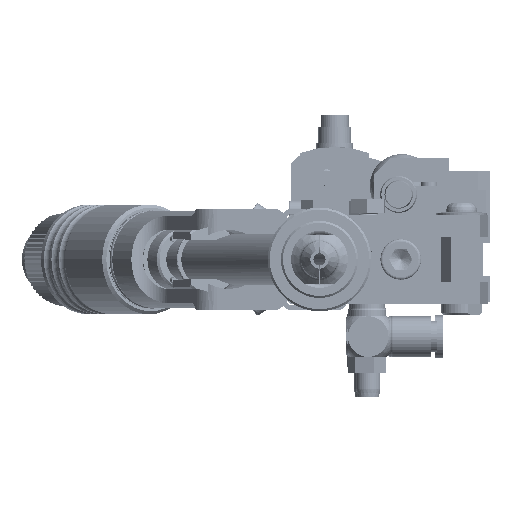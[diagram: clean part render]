
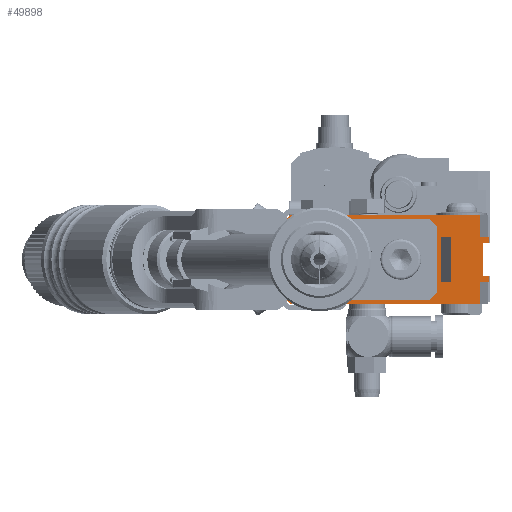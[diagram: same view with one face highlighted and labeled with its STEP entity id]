
A CAD part, left-side view. The second image highlights one B-rep face of the part: STEP entity #49898.
In plain terms, the highlighted planar face has unit normal (-1, 0, 0).
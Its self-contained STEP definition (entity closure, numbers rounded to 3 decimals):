
#1661=LINE($,#80573,#4888);
#2076=LINE($,#83476,#5303);
#2079=LINE($,#83482,#5306);
#2083=LINE($,#83489,#5310);
#2088=LINE($,#83499,#5315);
#2091=LINE($,#83506,#5318);
#2099=LINE($,#83519,#5326);
#2103=LINE($,#83527,#5330);
#2107=LINE($,#83536,#5334);
#2111=LINE($,#83551,#5338);
#2764=LINE($,#86483,#5991);
#2767=LINE($,#86489,#5994);
#2774=LINE($,#86502,#6001);
#2776=LINE($,#86506,#6003);
#2780=LINE($,#86513,#6007);
#2782=LINE($,#86517,#6009);
#2789=LINE($,#86557,#6016);
#2794=LINE($,#86565,#6021);
#2800=LINE($,#86583,#6027);
#2803=LINE($,#86588,#6030);
#2820=LINE($,#86621,#6047);
#2821=LINE($,#86624,#6048);
#2833=LINE($,#86651,#6060);
#2834=LINE($,#86653,#6061);
#2838=LINE($,#86661,#6065);
#2839=LINE($,#86662,#6066);
#2840=LINE($,#86664,#6067);
#2841=LINE($,#86665,#6068);
#4888=VECTOR($,#60247,32.924);
#5303=VECTOR($,#61754,8.);
#5306=VECTOR($,#61759,1.5);
#5310=VECTOR($,#61765,1.5);
#5315=VECTOR($,#61774,1.5);
#5318=VECTOR($,#61779,2.176);
#5326=VECTOR($,#61791,2.176);
#5330=VECTOR($,#61801,1.5);
#5334=VECTOR($,#61807,11.);
#5338=VECTOR($,#61827,11.);
#5991=VECTOR($,#63944,1.5);
#5994=VECTOR($,#63949,1.414);
#6001=VECTOR($,#63960,0.5);
#6003=VECTOR($,#63964,1.5);
#6007=VECTOR($,#63970,1.2);
#6009=VECTOR($,#63974,0.5);
#6016=VECTOR($,#64021,5.657);
#6021=VECTOR($,#64028,11.5);
#6027=VECTOR($,#64042,5.657);
#6030=VECTOR($,#64047,11.5);
#6047=VECTOR($,#64080,1.414);
#6048=VECTOR($,#64085,1.2);
#6060=VECTOR($,#64117,2.278);
#6061=VECTOR($,#64120,2.278);
#6065=VECTOR($,#64130,5.5);
#6066=VECTOR($,#64131,14.);
#6067=VECTOR($,#64132,32.924);
#6068=VECTOR($,#64133,5.5);
#12797=FACE_BOUND($,#18810,.T.);
#12798=FACE_BOUND($,#18811,.T.);
#12799=FACE_BOUND($,#18812,.T.);
#14902=FACE_OUTER_BOUND($,#18809,.T.);
#18809=EDGE_LOOP($,(#40186,#40187,#40188,#40189,#40190,#40191,#40192,#40193,
#40194,#40195,#40196,#40197,#40198,#40199,#40200,#40201,#40202,#40203,#40204,
#40205,#40206,#40207,#40208,#40209));
#18810=EDGE_LOOP($,(#40210,#40211,#40212,#40213));
#18811=EDGE_LOOP($,(#40214));
#18812=EDGE_LOOP($,(#40215));
#21702=CIRCLE($,#54092,8.975);
#21754=CIRCLE($,#54229,8.);
#23899=VERTEX_POINT($,#80570);
#23900=VERTEX_POINT($,#80572);
#24457=VERTEX_POINT($,#83473);
#24458=VERTEX_POINT($,#83475);
#24460=VERTEX_POINT($,#83481);
#24462=VERTEX_POINT($,#83487);
#24465=VERTEX_POINT($,#83498);
#24466=VERTEX_POINT($,#83502);
#24468=VERTEX_POINT($,#83505);
#24471=VERTEX_POINT($,#83518);
#24474=VERTEX_POINT($,#83530);
#24476=VERTEX_POINT($,#83534);
#24478=VERTEX_POINT($,#83548);
#24479=VERTEX_POINT($,#83550);
#25082=VERTEX_POINT($,#86098);
#25205=VERTEX_POINT($,#86480);
#25206=VERTEX_POINT($,#86482);
#25207=VERTEX_POINT($,#86486);
#25208=VERTEX_POINT($,#86488);
#25212=VERTEX_POINT($,#86500);
#25213=VERTEX_POINT($,#86504);
#25215=VERTEX_POINT($,#86511);
#25216=VERTEX_POINT($,#86515);
#25219=VERTEX_POINT($,#86525);
#25228=VERTEX_POINT($,#86554);
#25229=VERTEX_POINT($,#86556);
#25238=VERTEX_POINT($,#86581);
#25239=VERTEX_POINT($,#86582);
#25240=VERTEX_POINT($,#86587);
#25255=VERTEX_POINT($,#86663);
#28770=EDGE_CURVE($,#23900,#23899,#1661,.T.);
#29505=EDGE_CURVE($,#24458,#24457,#2076,.T.);
#29508=EDGE_CURVE($,#24460,#24458,#2079,.T.);
#29512=EDGE_CURVE($,#24457,#24462,#2083,.T.);
#29517=EDGE_CURVE($,#24465,#24460,#2088,.T.);
#29520=EDGE_CURVE($,#24468,#24466,#2091,.T.);
#29528=EDGE_CURVE($,#24471,#24465,#2099,.T.);
#29532=EDGE_CURVE($,#24462,#24468,#2103,.T.);
#29536=EDGE_CURVE($,#24474,#24476,#2107,.T.);
#29541=EDGE_CURVE($,#24479,#24478,#2111,.T.);
#30422=EDGE_CURVE($,#25082,#25082,#21702,.T.);
#30606=EDGE_CURVE($,#25206,#25205,#2764,.T.);
#30609=EDGE_CURVE($,#25208,#25207,#2767,.T.);
#30616=EDGE_CURVE($,#25207,#25212,#2774,.T.);
#30618=EDGE_CURVE($,#23899,#25213,#2776,.T.);
#30622=EDGE_CURVE($,#25213,#25215,#2780,.T.);
#30624=EDGE_CURVE($,#25215,#25216,#2782,.T.);
#30627=EDGE_CURVE($,#25219,#25219,#21754,.T.);
#30639=EDGE_CURVE($,#25228,#25229,#2789,.T.);
#30644=EDGE_CURVE($,#25208,#25228,#2794,.T.);
#30652=EDGE_CURVE($,#25238,#25239,#2800,.T.);
#30655=EDGE_CURVE($,#25240,#25239,#2803,.T.);
#30674=EDGE_CURVE($,#25216,#25240,#2820,.T.);
#30675=EDGE_CURVE($,#25212,#25206,#2821,.T.);
#30689=EDGE_CURVE($,#24478,#24474,#2833,.T.);
#30690=EDGE_CURVE($,#24476,#24479,#2834,.T.);
#30694=EDGE_CURVE($,#24466,#23900,#2838,.T.);
#30695=EDGE_CURVE($,#25238,#25229,#2839,.T.);
#30696=EDGE_CURVE($,#25255,#25205,#2840,.T.);
#30697=EDGE_CURVE($,#25255,#24471,#2841,.T.);
#40186=ORIENTED_EDGE($,*,*,#30694,.T.);
#40187=ORIENTED_EDGE($,*,*,#28770,.T.);
#40188=ORIENTED_EDGE($,*,*,#30618,.T.);
#40189=ORIENTED_EDGE($,*,*,#30622,.T.);
#40190=ORIENTED_EDGE($,*,*,#30624,.T.);
#40191=ORIENTED_EDGE($,*,*,#30674,.T.);
#40192=ORIENTED_EDGE($,*,*,#30655,.T.);
#40193=ORIENTED_EDGE($,*,*,#30652,.F.);
#40194=ORIENTED_EDGE($,*,*,#30695,.T.);
#40195=ORIENTED_EDGE($,*,*,#30639,.F.);
#40196=ORIENTED_EDGE($,*,*,#30644,.F.);
#40197=ORIENTED_EDGE($,*,*,#30609,.T.);
#40198=ORIENTED_EDGE($,*,*,#30616,.T.);
#40199=ORIENTED_EDGE($,*,*,#30675,.T.);
#40200=ORIENTED_EDGE($,*,*,#30606,.T.);
#40201=ORIENTED_EDGE($,*,*,#30696,.F.);
#40202=ORIENTED_EDGE($,*,*,#30697,.T.);
#40203=ORIENTED_EDGE($,*,*,#29528,.T.);
#40204=ORIENTED_EDGE($,*,*,#29517,.T.);
#40205=ORIENTED_EDGE($,*,*,#29508,.T.);
#40206=ORIENTED_EDGE($,*,*,#29505,.T.);
#40207=ORIENTED_EDGE($,*,*,#29512,.T.);
#40208=ORIENTED_EDGE($,*,*,#29532,.T.);
#40209=ORIENTED_EDGE($,*,*,#29520,.T.);
#40210=ORIENTED_EDGE($,*,*,#29536,.T.);
#40211=ORIENTED_EDGE($,*,*,#30690,.T.);
#40212=ORIENTED_EDGE($,*,*,#29541,.T.);
#40213=ORIENTED_EDGE($,*,*,#30689,.T.);
#40214=ORIENTED_EDGE($,*,*,#30627,.T.);
#40215=ORIENTED_EDGE($,*,*,#30422,.T.);
#47462=PLANE($,#54273);
#49898=ADVANCED_FACE($,(#14902,#12797,#12798,#12799),#47462,.T.);
#54092=AXIS2_PLACEMENT_3D($,#86099,#63558,#63559);
#54229=AXIS2_PLACEMENT_3D($,#86526,#63985,#63986);
#54273=AXIS2_PLACEMENT_3D($,#86660,#64128,#64129);
#60247=DIRECTION($,(0.,1.,0.));
#61754=DIRECTION($,(0.,0.,1.));
#61759=DIRECTION($,(0.,1.,0.));
#61765=DIRECTION($,(0.,-1.,0.));
#61774=DIRECTION($,(0.,0.,1.));
#61779=DIRECTION($,(0.,1.,0.));
#61791=DIRECTION($,(0.,-1.,0.));
#61801=DIRECTION($,(0.,0.,1.));
#61807=DIRECTION($,(0.,0.,-1.));
#61827=DIRECTION($,(0.,0.,1.));
#63558=DIRECTION('center_axis',(1.,0.,0.));
#63559=DIRECTION('ref_axis',(0.,0.,
1.));
#63944=DIRECTION($,(0.,0.,-1.));
#63949=DIRECTION($,(0.,-0.707,0.707));
#63960=DIRECTION($,(0.,0.,1.));
#63964=DIRECTION($,(0.,0.,-1.));
#63970=DIRECTION($,(0.,1.,0.));
#63974=DIRECTION($,(0.,0.,1.));
#63985=DIRECTION('center_axis',(1.,0.,0.));
#63986=DIRECTION('ref_axis',(0.,1.,0.));
#64021=DIRECTION($,(0.,0.707,0.707));
#64028=DIRECTION($,(0.,1.,0.));
#64042=DIRECTION($,(0.,-0.707,0.707));
#64047=DIRECTION($,(0.,1.,0.));
#64080=DIRECTION($,(0.,0.707,0.707));
#64085=DIRECTION($,(0.,-1.,0.));
#64117=DIRECTION($,(0.,-1.,0.));
#64120=DIRECTION($,(0.,1.,0.));
#64128=DIRECTION('center_axis',(-1.,0.,0.));
#64129=DIRECTION('ref_axis',(0.,0.,1.));
#64130=DIRECTION($,(0.,0.,1.));
#64131=DIRECTION($,(0.,0.,-1.));
#64132=DIRECTION($,(0.,1.,0.));
#64133=DIRECTION($,(0.,0.,1.));
#80570=CARTESIAN_POINT('',(0.,35.1,11.));
#80572=CARTESIAN_POINT('',(0.,2.176,11.));
#80573=CARTESIAN_POINT($,(0.,2.176,11.));
#83473=CARTESIAN_POINT('',(0.,1.5,4.));
#83475=CARTESIAN_POINT('',(0.,1.5,-4.));
#83476=CARTESIAN_POINT($,(0.,1.5,-4.));
#83481=CARTESIAN_POINT('',(0.,0.,-4.));
#83482=CARTESIAN_POINT($,(0.,0.,-4.));
#83487=CARTESIAN_POINT('',(0.,0.,4.));
#83489=CARTESIAN_POINT($,(0.,1.5,4.));
#83498=CARTESIAN_POINT('',(0.,0.,
-5.5));
#83499=CARTESIAN_POINT($,(0.,0.,-5.5));
#83502=CARTESIAN_POINT('',(0.,2.176,5.5));
#83505=CARTESIAN_POINT('',(0.,0.,
5.5));
#83506=CARTESIAN_POINT($,(0.,0.,5.5));
#83518=CARTESIAN_POINT('',(0.,2.176,-5.5));
#83519=CARTESIAN_POINT($,(0.,2.176,-5.5));
#83527=CARTESIAN_POINT($,(0.,0.,4.));
#83530=CARTESIAN_POINT('',(0.,9.522,5.5));
#83534=CARTESIAN_POINT('',(0.,9.522,-5.5));
#83536=CARTESIAN_POINT($,(0.,9.522,5.5));
#83548=CARTESIAN_POINT('',(0.,11.8,5.5));
#83550=CARTESIAN_POINT('',(0.,11.8,-5.5));
#83551=CARTESIAN_POINT($,(0.,11.8,-5.5));
#86098=CARTESIAN_POINT('',(0.,41.8,-8.975));
#86099=CARTESIAN_POINT('Origin',(0.,41.8,0.));
#86480=CARTESIAN_POINT('',(0.,35.1,-11.));
#86482=CARTESIAN_POINT('',(0.,35.1,-9.5));
#86483=CARTESIAN_POINT($,(0.,35.1,-9.5));
#86486=CARTESIAN_POINT('',(0.,36.3,-10.));
#86488=CARTESIAN_POINT('',(0.,37.3,-11.));
#86489=CARTESIAN_POINT($,(0.,37.3,-11.));
#86500=CARTESIAN_POINT('',(0.,36.3,-9.5));
#86502=CARTESIAN_POINT($,(0.,36.3,-10.));
#86504=CARTESIAN_POINT('',(0.,35.1,9.5));
#86506=CARTESIAN_POINT($,(0.,35.1,11.));
#86511=CARTESIAN_POINT('',(0.,36.3,9.5));
#86513=CARTESIAN_POINT($,(0.,35.1,9.5));
#86515=CARTESIAN_POINT('',(0.,36.3,10.));
#86517=CARTESIAN_POINT($,(0.,36.3,9.5));
#86525=CARTESIAN_POINT('',(0.,29.8,0.));
#86526=CARTESIAN_POINT('Origin',(0.,21.8,0.));
#86554=CARTESIAN_POINT('',(0.,48.8,-11.));
#86556=CARTESIAN_POINT('',(0.,52.8,-7.));
#86557=CARTESIAN_POINT($,(0.,48.8,-11.));
#86565=CARTESIAN_POINT($,(0.,37.3,-11.));
#86581=CARTESIAN_POINT('',(0.,52.8,7.));
#86582=CARTESIAN_POINT('',(0.,48.8,11.));
#86583=CARTESIAN_POINT($,(0.,52.8,7.));
#86587=CARTESIAN_POINT('',(0.,37.3,11.));
#86588=CARTESIAN_POINT($,(0.,37.3,11.));
#86621=CARTESIAN_POINT($,(0.,36.3,10.));
#86624=CARTESIAN_POINT($,(0.,36.3,-9.5));
#86651=CARTESIAN_POINT($,(0.,11.8,5.5));
#86653=CARTESIAN_POINT($,(0.,9.522,-5.5));
#86660=CARTESIAN_POINT('Origin',(0.,0.3,
11.));
#86661=CARTESIAN_POINT($,(0.,2.176,5.5));
#86662=CARTESIAN_POINT($,(0.,52.8,7.));
#86663=CARTESIAN_POINT('',(0.,2.176,-11.));
#86664=CARTESIAN_POINT($,(0.,2.176,-11.));
#86665=CARTESIAN_POINT($,(0.,2.176,-11.));
